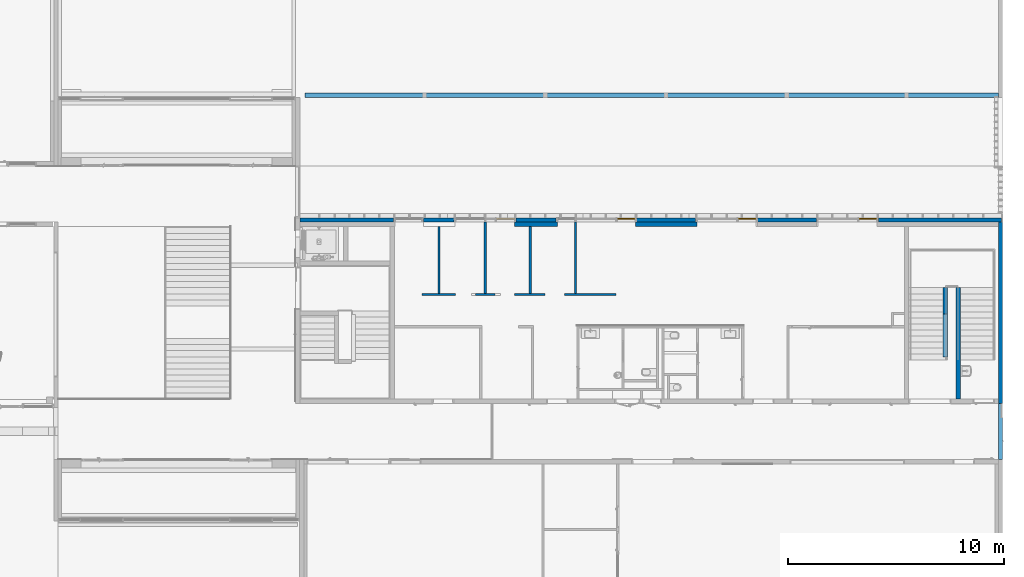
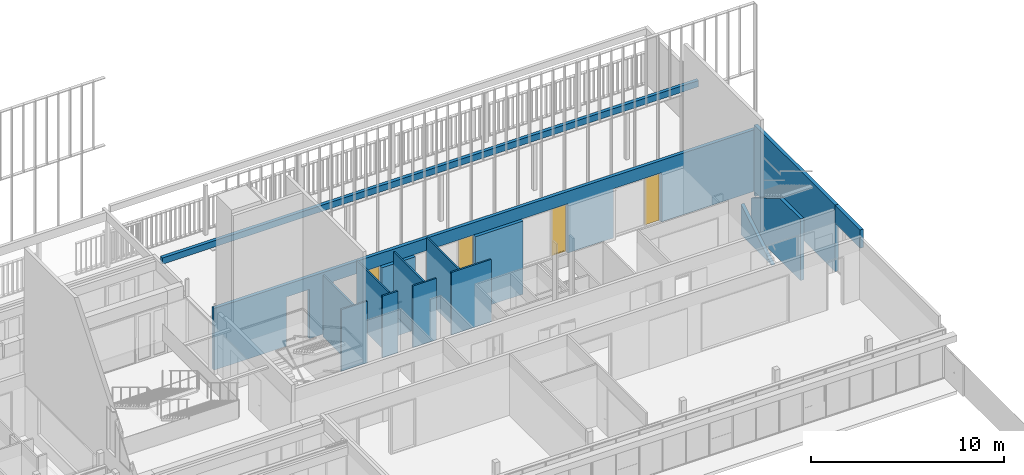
# One storey, part 174 of 240: 16 walls, 4 windows, 11 openings.
"""IFC2X3 building model written with IfcOpenShell, lengths in centimetres."""

from ifc_helpers import new_model, entity, si_unit, converted_unit, derived_unit, direction, frame, frame_2d, origin, origin_2d_with_axis, place, context, subcontext, project, spatial, polyline, rectangle, extrude, clip, halfspace, bounded_halfspace, faceted_brep, source, transform, mapped, material, material_list, layer, layer_set, layer_usage, type_object, type_shapes, element, fill, save


model = new_model("IFC2X3")

# Units and contexts
model_context = context("Model", 3, precision=0.001, world=origin(), true_north=direction((6.12303176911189e-17, 1.0)))
body_context = subcontext(model_context, "Body", "Model", "MODEL_VIEW")
ifc_project = project(units=[si_unit("LENGTHUNIT", "METRE", prefix="CENTI"), si_unit("AREAUNIT", "SQUARE_METRE"), si_unit("VOLUMEUNIT", "CUBIC_METRE"), converted_unit("PLANEANGLEUNIT", "DEGREE", entity("IfcRatioMeasure", 0.0174532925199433), si_unit("PLANEANGLEUNIT", "RADIAN"), dimensions=[0, 0, 0, 0, 0, 0, 0]), si_unit("MASSUNIT", "GRAM", prefix="KILO"), derived_unit("MASSDENSITYUNIT", [(si_unit("MASSUNIT", "GRAM", prefix="KILO"), 1), (si_unit("LENGTHUNIT", "METRE"), -3)]), si_unit("TIMEUNIT", "SECOND"), si_unit("FREQUENCYUNIT", "HERTZ"), si_unit("THERMODYNAMICTEMPERATUREUNIT", "DEGREE_CELSIUS"), derived_unit("THERMALTRANSMITTANCEUNIT", [(si_unit("MASSUNIT", "GRAM", prefix="KILO"), 1), (si_unit("THERMODYNAMICTEMPERATUREUNIT", "KELVIN"), -1), (si_unit("TIMEUNIT", "SECOND"), -3)]), derived_unit("VOLUMETRICFLOWRATEUNIT", [(si_unit("LENGTHUNIT", "METRE"), 3), (si_unit("TIMEUNIT", "SECOND"), -1)]), si_unit("ELECTRICCURRENTUNIT", "AMPERE"), si_unit("ELECTRICVOLTAGEUNIT", "VOLT"), si_unit("POWERUNIT", "WATT"), si_unit("FORCEUNIT", "NEWTON", prefix="KILO"), si_unit("ILLUMINANCEUNIT", "LUX"), si_unit("LUMINOUSFLUXUNIT", "LUMEN"), si_unit("LUMINOUSINTENSITYUNIT", "CANDELA"), derived_unit("USERDEFINED", [(si_unit("MASSUNIT", "GRAM", prefix="KILO"), -1), (si_unit("LENGTHUNIT", "METRE"), -2), (si_unit("TIMEUNIT", "SECOND"), 3), (si_unit("LUMINOUSFLUXUNIT", "LUMEN"), 1)]), derived_unit("LINEARVELOCITYUNIT", [(si_unit("LENGTHUNIT", "METRE"), 1), (si_unit("TIMEUNIT", "SECOND"), -1)]), si_unit("PRESSUREUNIT", "PASCAL"), derived_unit("USERDEFINED", [(si_unit("LENGTHUNIT", "METRE"), -2), (si_unit("MASSUNIT", "GRAM", prefix="KILO"), 1), (si_unit("TIMEUNIT", "SECOND"), -2)])], contexts=[model_context])

# Site, building, storey
site_placement = place(None, frame((-2781.94577612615, 7442.24238424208, 0.0)))
site = spatial("IfcSite", under=ifc_project, at=site_placement, Name="Default", CompositionType="ELEMENT")
building_placement = place(site_placement, origin())
building = spatial("IfcBuilding", under=site, at=building_placement, CompositionType="ELEMENT")
storey_placement = place(building_placement, origin())
storey = spatial("IfcBuildingStorey", under=building, at=storey_placement, Name="N00 - COO", CompositionType="ELEMENT", Elevation=0.0)

# Wall, openings, windows
ifc_material_1 = material(Name="Aluminium bardage")
ifc_layer_1 = layer(ifc_material_1, 0.5)
ifc_material_2 = material(Name="01 - Lame d'air")
ifc_layer_2 = layer(ifc_material_2, 1.5)
ifc_material_3 = material(Name="00 - Isolant")
ifc_layer_3 = layer(ifc_material_3, 18.0)
ifc_layer_set_1 = layer_set([ifc_layer_1, ifc_layer_2, ifc_layer_3], Name="Mur de base:04 - Parement - ITE 18cm + vide 2cm")
ifc_layer_usage_1 = layer_usage(ifc_layer_set_1, "AXIS2", "NEGATIVE", 10.0)
wall_type_1 = type_object("IfcWallType", Name="Mur de base:04 - Parement - ITE 18cm + vide 2cm", PredefinedType="STANDARD", material=ifc_layer_set_1)
wall_1_placement = place(building_placement, frame((-3647.99987968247, -1080.0, 0.0)))
wall_1 = element("IfcWallStandardCase", 1, at=wall_1_placement, inside=storey, type_object=wall_type_1, material=ifc_layer_usage_1, Name="Mur de base:04 - Parement - ITE 18cm + vide 2cm", ObjectType="Mur de base:04 - Parement - ITE 18cm + vide 2cm", context=body_context, shape_type="SweptSolid", body=[
    extrude(rectangle(XDim=3253.0, YDim=20.0000000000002, at=frame_2d((1626.5, 2.66453525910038e-14), x_axis=(-1.0, 0.0))), origin(), (0.0, 0.0, 1.0), 391.0),
])
opening_1_placement = place(wall_1_placement, origin())
element("IfcOpeningElement", 2, at=opening_1_placement, cuts=wall_1, Name="Mur de base:04 - Parement - ITE 18cm + vide 2cm", ObjectType="Opening", context=body_context, shape_type="SweptSolid", body=[
    extrude(rectangle(XDim=312.5, YDim=286.5, at=frame_2d((0.0, -1.13686837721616e-13), x_axis=(1.0, 0.0))), frame((1978.69999684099, -25.2399999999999, 156.25), z_axis=(0.0, 1.0, 0.0), x_axis=(0.0, 0.0, 1.0)), (0.0, 0.0, 1.0), 50.48),
])
opening_2_placement = place(wall_1_placement, origin())
element("IfcOpeningElement", 3, at=opening_2_placement, cuts=wall_1, Name="Mur de base:04 - Parement - ITE 18cm + vide 2cm", ObjectType="Opening", context=body_context, shape_type="SweptSolid", body=[
    extrude(rectangle(XDim=312.5, YDim=286.5, at=origin_2d_with_axis()), frame((2538.69999684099, -25.2399999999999, 156.25), z_axis=(0.0, 1.0, 0.0), x_axis=(0.0, 0.0, 1.0)), (0.0, 0.0, 1.0), 50.48),
])
opening_3_placement = place(wall_1_placement, origin())
element("IfcOpeningElement", 4, at=opening_3_placement, cuts=wall_1, Name="Mur de base:04 - Parement - ITE 18cm + vide 2cm", ObjectType="Opening", context=body_context, shape_type="SweptSolid", body=[
    extrude(rectangle(XDim=312.5, YDim=137.249999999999, at=origin_2d_with_axis()), frame((504.074996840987, -25.2399999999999, 156.25), z_axis=(0.0, 1.0, 0.0), x_axis=(0.0, 0.0, 1.0)), (0.0, 0.0, 1.0), 50.48),
])
opening_4_placement = place(wall_1_placement, origin())
element("IfcOpeningElement", 5, at=opening_4_placement, cuts=wall_1, Name="Mur de base:04 - Parement - ITE 18cm + vide 2cm", ObjectType="Opening", context=body_context, shape_type="SweptSolid", body=[
    extrude(rectangle(XDim=312.5, YDim=286.5, at=frame_2d((-2.1316282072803e-13, 0.0), x_axis=(0.0, 1.0))), frame((858.699996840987, -25.2399999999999, 156.25), z_axis=(0.0, 1.0, 0.0), x_axis=(-1.0, 0.0, 0.0)), (0.0, 0.0, 1.0), 50.48),
])
opening_5_placement = place(wall_1_placement, origin())
element("IfcOpeningElement", 6, at=opening_5_placement, cuts=wall_1, Name="Mur de base:04 - Parement - ITE 18cm + vide 2cm", ObjectType="Opening", context=body_context, shape_type="SweptSolid", body=[
    extrude(rectangle(XDim=312.5, YDim=89.9999999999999, at=frame_2d((2.16715534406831e-13, 0.0), x_axis=(0.0, 1.0))), frame((1233.69999684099, -25.2399999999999, 156.25), z_axis=(0.0, 1.0, 0.0), x_axis=(-1.0, 0.0, 0.0)), (0.0, 0.0, 1.0), 50.48),
])
opening_6_placement = place(wall_1_placement, origin())
element("IfcOpeningElement", 7, at=opening_6_placement, cuts=wall_1, Name="Mur de base:04 - Parement - ITE 18cm + vide 2cm", ObjectType="Opening", context=body_context, shape_type="SweptSolid", body=[
    extrude(rectangle(XDim=312.5, YDim=286.5, at=frame_2d((-2.1316282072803e-13, 0.0), x_axis=(0.0, 1.0))), frame((1418.69999684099, -25.2399999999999, 156.25), z_axis=(0.0, 1.0, 0.0), x_axis=(-1.0, 0.0, 0.0)), (0.0, 0.0, 1.0), 50.48),
])
opening_7_placement = place(wall_1_placement, frame((2031.94999684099, -10.0, 6.5)))
opening_7 = element("IfcOpeningElement", 8, at=opening_7_placement, cuts=wall_1, Name="Ouvrant vitré:Ouvrant vitré (90cm) RDC:1", ObjectType="Opening", context=body_context, shape_type="SweptSolid", body=[
    extrude(rectangle(XDim=299.5, YDim=83.5000000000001, at=frame_2d((149.75, 41.75), x_axis=(1.0, 0.0))), frame((0.0, 0.0, 0.0), z_axis=(0.0, 1.0, 0.0), x_axis=(0.0, 0.0, 1.0)), (0.0, 0.0, 1.0), 20.0),
])
opening_8_placement = place(wall_1_placement, frame((1471.94999684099, -10.0, 6.5)))
opening_8 = element("IfcOpeningElement", 9, at=opening_8_placement, cuts=wall_1, Name="Ouvrant vitré:Ouvrant vitré (90cm) RDC:1", ObjectType="Opening", context=body_context, shape_type="SweptSolid", body=[
    extrude(rectangle(XDim=299.5, YDim=83.5000000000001, at=frame_2d((149.75, 41.75), x_axis=(1.0, 0.0))), frame((0.0, 0.0, 0.0), z_axis=(0.0, 1.0, 0.0), x_axis=(0.0, 0.0, 1.0)), (0.0, 0.0, 1.0), 20.0),
])
opening_9_placement = place(wall_1_placement, frame((911.949996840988, -10.0, 6.5)))
opening_9 = element("IfcOpeningElement", 10, at=opening_9_placement, cuts=wall_1, Name="Ouvrant vitré:Ouvrant vitré (90cm) RDC:1", ObjectType="Opening", context=body_context, shape_type="SweptSolid", body=[
    extrude(rectangle(XDim=299.5, YDim=83.5000000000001, at=frame_2d((149.75, 41.75), x_axis=(1.0, 0.0))), frame((0.0, 0.0, 0.0), z_axis=(0.0, 1.0, 0.0), x_axis=(0.0, 0.0, 1.0)), (0.0, 0.0, 1.0), 20.0),
])
opening_10_placement = place(wall_1_placement, frame((2591.94999684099, -10.0, 6.5)))
opening_10 = element("IfcOpeningElement", 11, at=opening_10_placement, cuts=wall_1, Name="Ouvrant vitré:Ouvrant vitré (90cm) RDC:1", ObjectType="Opening", context=body_context, shape_type="SweptSolid", body=[
    extrude(rectangle(XDim=299.5, YDim=83.5000000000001, at=frame_2d((149.75, 41.75), x_axis=(1.0, 0.0))), frame((0.0, 0.0, 0.0), z_axis=(0.0, 1.0, 0.0), x_axis=(0.0, 0.0, 1.0)), (0.0, 0.0, 1.0), 20.0),
])
ifc_material_4 = material(Name="Verre")
ifc_material_5 = material(Name="Aluminium")
ifc_material_list_1 = material_list([ifc_material_4, ifc_material_5])
ifc_material_list_2 = material_list([ifc_material_4, ifc_material_5])
window_style_1 = type_object("IfcWindowStyle", Name="Ouvrant vitré (90cm) RDC", ConstructionType="NOTDEFINED", OperationType="NOTDEFINED", ParameterTakesPrecedence=False, Sizeable=False, material=ifc_material_list_2)
shared_shape_1 = source(origin(), body_context, "Body", "Brep", [
    faceted_brep([(6.50000000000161, 15.2499999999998, 293.0), (77.0, 15.2500000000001, 293.0), (77.0, 15.2500000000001, 6.49999999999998), (6.50000000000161, 15.2499999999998, 6.49999999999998), (6.50000000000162, 13.2499999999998, 6.49999999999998), (6.50000000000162, 13.2499999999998, 293.0), (77.0, 13.2500000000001, 6.49999999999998), (77.0, 13.2500000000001, 293.0)], [[[0, 1, 2, 3]], [[3, 4, 5, 0]], [[2, 6, 4, 3]], [[1, 7, 6, 2]], [[5, 4, 6, 7]], [[0, 5, 7, 1]]]),
    faceted_brep([(6.50000000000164, 16.5395884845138, 293.0), (6.50000000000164, 16.5395884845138, 6.50000000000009), (77.0, 16.539588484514, 6.50000000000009), (77.0, 16.539588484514, 293.0), (3.50000000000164, 16.5395884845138, 296.0), (80.0, 16.5395884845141, 296.0), (80.0, 16.5395884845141, 3.50000000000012), (3.50000000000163, 16.5395884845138, 3.50000000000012), (3.50000000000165, 13.039588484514, 3.50000000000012), (3.50000000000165, 13.039588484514, 296.0), (80.0, 13.0395884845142, 3.50000000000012), (80.0, 13.0395884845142, 296.0), (77.0, 13.0395884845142, 6.50000000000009), (77.0, 13.0395884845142, 293.0), (6.50000000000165, 13.039588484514, 6.50000000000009), (6.50000000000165, 13.039588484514, 293.0)], [[[0, 1, 2, 3], [4, 5, 6, 7]], [[7, 8, 9, 4]], [[6, 10, 8, 7]], [[5, 11, 10, 6]], [[2, 12, 13, 3]], [[1, 14, 12, 2]], [[0, 15, 14, 1]], [[9, 8, 10, 11], [15, 13, 12, 14]], [[4, 9, 11, 5]], [[3, 13, 15, 0]]], outer=[[False, True], [True], [True], [True], [True], [True], [True], [True, False], [True], [True]]),
    faceted_brep([(5.0, 16.5395884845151, 294.5), (5.0, 16.5395884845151, 5.0), (5.0, 18.0395884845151, 5.0), (5.0, 18.0395884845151, 294.5), (78.5000000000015, 18.0395884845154, 5.0), (78.5000000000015, 18.0395884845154, 294.5), (0.0, 18.0395884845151, 0.0), (0.0, 18.0395884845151, 299.5), (83.5000000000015, 18.0395884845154, 299.5), (83.5000000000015, 18.0395884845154, 0.0), (78.5000000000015, 16.5395884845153, 5.0), (78.5000000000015, 16.5395884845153, 294.5), (3.50000000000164, 16.5395884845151, 296.0), (3.50000000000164, 16.5395884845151, 3.50000000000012), (80.0, 16.5395884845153, 3.50000000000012), (80.0, 16.5395884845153, 296.0), (3.50000000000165, 13.0395884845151, 296.0), (3.50000000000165, 13.0395884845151, 3.50000000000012), (80.0, 13.0395884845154, 3.50000000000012), (80.0, 13.0395884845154, 296.0), (0.0, 13.0395884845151, 299.5), (0.0, 13.0395884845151, 0.0), (83.5000000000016, 13.0395884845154, 0.0), (83.5000000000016, 13.0395884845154, 299.5)], [[[0, 1, 2, 3]], [[3, 2, 4, 5], [6, 7, 8, 9]], [[1, 10, 4, 2]], [[1, 0, 11, 10], [12, 13, 14, 15]], [[16, 17, 13, 12]], [[17, 18, 14, 13]], [[17, 16, 19, 18], [20, 21, 22, 23]], [[7, 6, 21, 20]], [[6, 9, 22, 21]], [[10, 11, 5, 4]], [[18, 19, 15, 14]], [[9, 8, 23, 22]], [[11, 0, 3, 5]], [[19, 16, 12, 15]], [[8, 7, 20, 23]]], outer=[[True], [False, True], [True], [False, True], [True], [True], [False, True], [True], [True], [True], [True], [True], [True], [True], [True]]),
])
type_shapes(window_style_1, [shared_shape_1])
window_1_placement = place(opening_10_placement, origin())
window_1 = element("IfcWindow", 12, at=window_1_placement, inside=storey, type_object=window_style_1, material=ifc_material_list_1, Name="Ouvrant vitré:Ouvrant vitré (90cm) RDC", ObjectType="Ouvrant vitré:Ouvrant vitré (90cm) RDC", OverallHeight=299.5, OverallWidth=83.5000000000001, context=body_context, shape_type="MappedRepresentation", body=[
    mapped(shared_shape_1, transform((0.0, 0.0, 0.0), scale=1.0)),
])
fill(opening_10, window_1)
ifc_material_list_3 = material_list([ifc_material_4, ifc_material_5])
window_2_placement = place(opening_9_placement, origin())
window_2 = element("IfcWindow", 13, at=window_2_placement, inside=storey, type_object=window_style_1, material=ifc_material_list_3, Name="Ouvrant vitré:Ouvrant vitré (90cm) RDC", ObjectType="Ouvrant vitré:Ouvrant vitré (90cm) RDC", OverallHeight=299.5, OverallWidth=83.5000000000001, context=body_context, shape_type="MappedRepresentation", body=[
    mapped(shared_shape_1, transform((0.0, 0.0, 0.0), scale=1.0)),
])
fill(opening_9, window_2)
ifc_material_list_4 = material_list([ifc_material_4, ifc_material_5])
ifc_material_list_5 = material_list([ifc_material_4, ifc_material_5])
window_style_2 = type_object("IfcWindowStyle", Name="Ouvrant vitré (90cm) RDC", ConstructionType="NOTDEFINED", OperationType="NOTDEFINED", ParameterTakesPrecedence=False, Sizeable=False, material=ifc_material_list_5)
shared_shape_2 = source(origin(), body_context, "Body", "Brep", [
    faceted_brep([(77.0, 15.2499999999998, 293.0), (77.0, 15.2499999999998, 6.49999999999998), (6.50000000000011, 15.2500000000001, 6.49999999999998), (6.50000000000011, 15.2500000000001, 293.0), (77.0, 13.2499999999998, 293.0), (77.0, 13.2499999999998, 6.49999999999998), (6.50000000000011, 13.2500000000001, 6.49999999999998), (6.50000000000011, 13.2500000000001, 293.0)], [[[0, 1, 2, 3]], [[1, 0, 4, 5]], [[2, 1, 5, 6]], [[3, 2, 6, 7]], [[4, 7, 6, 5]], [[0, 3, 7, 4]]]),
    faceted_brep([(80.0, 16.5395884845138, 296.0), (80.0, 16.5395884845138, 3.50000000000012), (3.50000000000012, 16.5395884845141, 3.50000000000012), (3.50000000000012, 16.5395884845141, 296.0), (77.0, 16.5395884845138, 293.0), (6.50000000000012, 16.539588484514, 293.0), (6.50000000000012, 16.539588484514, 6.50000000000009), (77.0, 16.5395884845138, 6.50000000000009), (80.0, 13.039588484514, 296.0), (80.0, 13.039588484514, 3.50000000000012), (3.50000000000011, 13.0395884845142, 3.50000000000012), (3.50000000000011, 13.0395884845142, 296.0), (6.50000000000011, 13.0395884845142, 293.0), (6.50000000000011, 13.0395884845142, 6.50000000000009), (77.0, 13.039588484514, 6.50000000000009), (77.0, 13.039588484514, 293.0)], [[[0, 1, 2, 3], [4, 5, 6, 7]], [[1, 0, 8, 9]], [[2, 1, 9, 10]], [[3, 2, 10, 11]], [[6, 5, 12, 13]], [[7, 6, 13, 14]], [[4, 7, 14, 15]], [[15, 14, 13, 12], [8, 11, 10, 9]], [[0, 3, 11, 8]], [[5, 4, 15, 12]]], outer=[[True, False], [True], [True], [True], [True], [True], [True], [False, True], [True], [True]]),
    faceted_brep([(78.5, 16.5395884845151, 294.5), (78.5, 18.0395884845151, 294.5), (78.5, 18.0395884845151, 5.0), (78.5, 16.5395884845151, 5.0), (83.5, 18.0395884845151, 0.0), (0.0, 18.0395884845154, 0.0), (0.0, 18.0395884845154, 299.5), (83.5, 18.0395884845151, 299.5), (5.0, 18.0395884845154, 294.5), (5.0, 18.0395884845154, 5.0), (5.0, 16.5395884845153, 5.0), (5.0, 16.5395884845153, 294.5), (80.0, 16.5395884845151, 296.0), (3.50000000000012, 16.5395884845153, 296.0), (3.50000000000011, 16.5395884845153, 3.50000000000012), (80.0, 16.5395884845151, 3.50000000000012), (80.0, 13.0395884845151, 296.0), (80.0, 13.0395884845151, 3.50000000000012), (3.5000000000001, 13.0395884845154, 3.50000000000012), (3.50000000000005, 13.0395884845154, 296.0), (83.5000000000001, 13.0395884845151, 299.5), (0.0, 13.0395884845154, 299.5), (0.0, 13.0395884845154, 0.0), (83.5, 13.0395884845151, 0.0)], [[[0, 1, 2, 3]], [[4, 5, 6, 7], [1, 8, 9, 2]], [[3, 2, 9, 10]], [[3, 10, 11, 0], [12, 13, 14, 15]], [[16, 12, 15, 17]], [[17, 15, 14, 18]], [[17, 18, 19, 16], [20, 21, 22, 23]], [[7, 20, 23, 4]], [[4, 23, 22, 5]], [[10, 9, 8, 11]], [[18, 14, 13, 19]], [[5, 22, 21, 6]], [[11, 8, 1, 0]], [[19, 13, 12, 16]], [[6, 21, 20, 7]]], outer=[[True], [True, False], [True], [False, True], [True], [True], [False, True], [True], [True], [True], [True], [True], [True], [True], [True]]),
])
type_shapes(window_style_2, [shared_shape_2])
window_3_placement = place(opening_7_placement, origin())
window_3 = element("IfcWindow", 14, at=window_3_placement, inside=storey, type_object=window_style_2, material=ifc_material_list_4, Name="Ouvrant vitré:Ouvrant vitré (90cm) RDC", ObjectType="Ouvrant vitré:Ouvrant vitré (90cm) RDC", OverallHeight=299.5, OverallWidth=83.5000000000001, context=body_context, shape_type="MappedRepresentation", body=[
    mapped(shared_shape_2, transform((0.0, 0.0, 0.0), scale=1.0)),
])
fill(opening_7, window_3)
ifc_material_list_6 = material_list([ifc_material_4, ifc_material_5])
window_4_placement = place(opening_8_placement, origin())
window_4 = element("IfcWindow", 15, at=window_4_placement, inside=storey, type_object=window_style_2, material=ifc_material_list_6, Name="Ouvrant vitré:Ouvrant vitré (90cm) RDC", ObjectType="Ouvrant vitré:Ouvrant vitré (90cm) RDC", OverallHeight=299.5, OverallWidth=83.5000000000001, context=body_context, shape_type="MappedRepresentation", body=[
    mapped(shared_shape_2, transform((0.0, 0.0, 0.0), scale=1.0)),
])
fill(opening_8, window_4)

# Walls
ifc_material_6 = material(Name="01 - Maçonnerie")
ifc_layer_4 = layer(ifc_material_6, 20.0)
ifc_layer_set_2 = layer_set([ifc_layer_4], Name="Mur de base:04 - Structure - béton - 20cm")
ifc_layer_usage_2 = layer_usage(ifc_layer_set_2, "AXIS2", "NEGATIVE", 10.0)
wall_type_2 = type_object("IfcWallType", Name="Mur de base:04 - Structure - béton - 20cm", PredefinedType="STANDARD", material=ifc_layer_set_2)
wall_2_placement = place(building_placement, frame((-3623.99987968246, -502.548500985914, 313.0)))
element("IfcWallStandardCase", 16, at=wall_2_placement, inside=storey, type_object=wall_type_2, material=ifc_layer_usage_2, Name="Mur de base:04 - Structure - béton - 20cm", ObjectType="Mur de base:04 - Structure - béton - 20cm", context=body_context, shape_type="SweptSolid", body=[
    extrude(rectangle(XDim=3213.99999684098, YDim=20.0, at=frame_2d((1606.99999842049, 2.66453525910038e-14), x_axis=(-1.0, 0.0))), origin(), (0.0, 0.0, 1.0), 40.0000000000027),
])
ifc_layer_usage_3 = layer_usage(ifc_layer_set_2, "AXIS2", "NEGATIVE", 10.0)
wall_3_placement = place(building_placement, frame((-2652.54988284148, -1100.0, -150.0)))
element("IfcWallStandardCase", 17, at=wall_3_placement, inside=storey, type_object=wall_type_2, material=ifc_layer_usage_3, Name="Mur de base:04 - Structure - béton - 20cm", ObjectType="Mur de base:04 - Structure - béton - 20cm", context=body_context, shape_type="SweptSolid", body=[
    extrude(rectangle(XDim=199.749999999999, YDim=19.9999999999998, at=frame_2d((99.8749999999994, 1.68753899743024e-14), x_axis=(-1.0, 0.0))), origin(), (0.0, 0.0, 1.0), 463.0),
])
ifc_layer_usage_4 = layer_usage(ifc_layer_set_2, "AXIS2", "NEGATIVE", 10.0)
wall_4_placement = place(storey_placement, frame((-2092.54988284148, -1100.0, -150.0)))
element("IfcWallStandardCase", 18, at=wall_4_placement, inside=storey, type_object=wall_type_2, material=ifc_layer_usage_4, Name="Mur de base:04 - Structure - béton - 20cm", ObjectType="Mur de base:04 - Structure - béton - 20cm", context=body_context, shape_type="SweptSolid", body=[
    extrude(rectangle(XDim=286.5, YDim=19.9999999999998, at=frame_2d((143.25, 1.06581410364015e-14), x_axis=(-1.0, 0.0))), origin(), (0.0, 0.0, 1.0), 463.0),
])

# Wall, opening
ifc_layer_usage_5 = layer_usage(ifc_layer_set_2, "AXIS2", "NEGATIVE", 10.0)
wall_5_placement = place(building_placement, frame((-399.999882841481, -1090.0, -26.0), z_axis=(0.0, 0.0, 1.0), x_axis=(0.0, -1.0, 0.0)))
wall_5 = element("IfcWallStandardCase", 19, at=wall_5_placement, inside=storey, type_object=wall_type_2, material=ifc_layer_usage_5, Name="Mur de base:04 - Structure - béton - 20cm", ObjectType="Mur de base:04 - Structure - béton - 20cm", context=body_context, shape_type="Clipping", body=[
    clip(clip(clip(extrude(rectangle(XDim=840.156567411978, YDim=20.0, at=frame_2d((420.078283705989, 5.32907051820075e-15), x_axis=(-1.0, 0.0))), origin(), (0.0, 0.0, 1.0), 448.0), bounded_halfspace(frame((0.0, 10.0, 448.0), z_axis=(0.0, 0.0, -1.0), x_axis=(0.0, 1.0, 0.0)), True, frame((0.0, 10.0, 448.0)), polyline([(0.0, 0.0), (0.0, -20.0), (820.079033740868, -20.0), (840.156567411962, -20.0), (840.156567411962, 0.0), (840.079033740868, 0.0), (820.079033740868, 0.0), (0.0, 0.0)]))), bounded_halfspace(frame((10.0, 10.0, 26.0), z_axis=(-1.0, 0.0, 0.0), x_axis=(0.0, -1.0, 0.0)), True, frame((10.0, 10.0, 26.0), z_axis=(-1.0, 0.0, 0.0), x_axis=(0.0, -1.0, 0.0)), polyline([(0.0, 0.0), (0.0, -26.0), (20.0, -26.0), (20.0, 0.0), (0.0, 0.0)]))), bounded_halfspace(frame((10.0, -10.0, 26.0), z_axis=(0.0, 0.0, 1.0), x_axis=(0.0, -1.0, 0.0)), True, frame((10.0, -10.0, 26.0), z_axis=(0.0, 0.0, 1.0), x_axis=(0.0, -1.0, 0.0)), polyline([(0.0, 0.0), (0.0, 10.0), (0.0, 810.079033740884), (0.0, 828.846567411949), (0.0, 830.079033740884), (0.0, 830.156567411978), (-20.0, 830.156567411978), (-20.0, 0.0), (0.0, 0.0)]))),
])
opening_11_placement = place(wall_5_placement, origin())
element("IfcOpeningElement", 20, at=opening_11_placement, cuts=wall_5, Name="Mur de base:04 - Structure - béton - 20cm", ObjectType="Opening", context=body_context, shape_type="SweptSolid", body=[
    extrude(rectangle(XDim=270.0, YDim=260.077533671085, at=frame_2d((-9.9475983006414e-14, 4.2632564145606e-14), x_axis=(0.0, 1.0))), frame((970.117800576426, -142.400000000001, 583.0), z_axis=(0.0, 1.0, 0.0), x_axis=(-1.0, 0.0, 0.0)), (0.0, 0.0, 1.0), 304.8),
])

# Walls
ifc_layer_usage_6 = layer_usage(ifc_layer_set_2, "AXIS2", "NEGATIVE", 10.0)
wall_6_placement = place(building_placement, frame((-399.999882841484, -2190.15656731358, 306.0), z_axis=(0.0, 0.0, 1.0), x_axis=(0.0, 1.0, 0.0)))
element("IfcWallStandardCase", 21, at=wall_6_placement, inside=storey, type_object=wall_type_2, material=ifc_layer_usage_6, Name="Mur de base:04 - Structure - béton - 20cm", ObjectType="Mur de base:04 - Structure - béton - 20cm", context=body_context, shape_type="SweptSolid", body=[
    extrude(rectangle(XDim=260.0, YDim=20.0, at=frame_2d((130.0, 0.0), x_axis=(-1.0, 0.0))), origin(), (0.0, 0.0, 1.0), 116.0),
])
ifc_layer_usage_7 = layer_usage(ifc_layer_set_2, "AXIS2", "NEGATIVE", 10.0)
wall_7_placement = place(building_placement, frame((-595.299882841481, -1394.07903364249, 0.0), z_axis=(0.0, 0.0, 1.0), x_axis=(0.0, -1.0, 0.0)))
element("IfcWallStandardCase", 22, at=wall_7_placement, inside=storey, type_object=wall_type_2, material=ifc_layer_usage_7, Name="Mur de base:04 - Structure - béton - 20cm", ObjectType="Mur de base:04 - Structure - béton - 20cm", context=body_context, shape_type="Clipping", body=[
    clip(clip(extrude(rectangle(XDim=516.000000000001, YDim=20.0, at=frame_2d((258.000000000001, 0.0), x_axis=(-1.0, 0.0))), origin(), (0.0, 0.0, 1.0), 391.0), halfspace(frame((0.0, -10.0, 210.098696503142), z_axis=(-0.516293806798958, 0.0, 0.85641152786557), x_axis=(0.0, 1.0, 0.0)), False)), halfspace(frame((300.073252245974, -10.0, 391.0), z_axis=(0.0, 0.0, 1.0), x_axis=(0.0, 1.0, 0.0)), False)),
])
ifc_layer_usage_8 = layer_usage(ifc_layer_set_2, "AXIS2", "NEGATIVE", 10.0)
wall_8_placement = place(building_placement, frame((-655.299882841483, -1714.58398044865, 0.0), z_axis=(0.0, 0.0, 1.0), x_axis=(0.0, 1.0, 0.0)))
element("IfcWallStandardCase", 23, at=wall_8_placement, inside=storey, type_object=wall_type_2, material=ifc_layer_usage_8, Name="Mur de base:04 - Structure - béton - 20cm", ObjectType="Mur de base:04 - Structure - béton - 20cm", context=body_context, shape_type="Clipping", body=[
    clip(extrude(rectangle(XDim=320.504946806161, YDim=20.0, at=frame_2d((160.252473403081, -1.24344978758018e-14), x_axis=(-1.0, 0.0))), origin(), (0.0, 0.0, 1.0), 193.218696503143), halfspace(frame((0.0, -10.0, 0.0), z_axis=(-0.516293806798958, 0.0, 0.85641152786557), x_axis=(0.0, 1.0, 0.0)), False)),
])
ifc_material_7 = material(Name="01 - Enduit/Plâtre")
ifc_layer_5 = layer(ifc_material_7, 1.3)
ifc_layer_6 = layer(ifc_material_3, 7.4)
ifc_layer_7 = layer(ifc_material_7, 1.3)
ifc_layer_set_3 = layer_set([ifc_layer_5, ifc_layer_6, ifc_layer_7], Name="Mur de base:06 - cloisons - Ba13 10cm")
ifc_layer_usage_9 = layer_usage(ifc_layer_set_3, "AXIS2", "NEGATIVE", 5.0)
wall_type_3 = type_object("IfcWallType", Name="Mur de base:06 - cloisons - Ba13 10cm", PredefinedType="STANDARD", material=ifc_layer_set_3)
wall_9_placement = place(building_placement, frame((-3081.79988284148, -1425.0, 0.0)))
element("IfcWallStandardCase", 24, at=wall_9_placement, inside=storey, type_object=wall_type_3, material=ifc_layer_usage_9, Name="Mur de base:06 - cloisons - Ba13 10cm", ObjectType="Mur de base:06 - cloisons - Ba13 10cm", context=body_context, shape_type="Clipping", body=[
    clip(extrude(rectangle(XDim=155.750000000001, YDim=9.99999999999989, at=frame_2d((77.8750000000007, 0.0), x_axis=(-1.0, 0.0))), origin(), (0.0, 0.0, 1.0), 391.0), bounded_halfspace(frame((0.0, -5.0, 391.0), z_axis=(0.0, 0.0, -1.0), x_axis=(0.0, 1.0, 0.0)), True, frame((0.0, -5.0, 391.0)), polyline([(0.0, 0.0), (155.750000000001, 0.0), (155.750000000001, 10.0), (84.300003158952, 10.0), (74.3000031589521, 10.0), (0.0, 10.0), (0.0, 0.0)]))),
])
ifc_layer_usage_10 = layer_usage(ifc_layer_set_3, "AXIS2", "NEGATIVE", 5.0)
wall_10_placement = place(building_placement, frame((-3002.49987968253, -1420.0, 0.0), z_axis=(0.0, 0.0, 1.0), x_axis=(0.0, 1.0, 0.0)))
element("IfcWallStandardCase", 25, at=wall_10_placement, inside=storey, type_object=wall_type_3, material=ifc_layer_usage_10, Name="Mur de base:06 - cloisons - Ba13 10cm", ObjectType="Mur de base:06 - cloisons - Ba13 10cm", context=body_context, shape_type="Clipping", body=[
    clip(extrude(rectangle(XDim=310.000000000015, YDim=10.0000000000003, at=frame_2d((155.000000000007, -1.05693231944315e-13), x_axis=(-1.0, 0.0))), origin(), (0.0, 0.0, 1.0), 391.0), bounded_halfspace(frame((0.0, -5.0, 391.0), z_axis=(0.0, 0.0, -1.0), x_axis=(1.0, 0.0, 0.0)), True, frame((0.0, -5.0, 391.0)), polyline([(0.0, 0.0), (305.0, 0.0), (305.0, 10.0), (0.0, 10.0), (0.0, 0.0)]))),
])
ifc_layer_usage_11 = layer_usage(ifc_layer_set_3, "AXIS2", "NEGATIVE", 5.0)
wall_11_placement = place(building_placement, frame((-2834.49987965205, -1425.0, 0.0)))
element("IfcWallStandardCase", 26, at=wall_11_placement, inside=storey, type_object=wall_type_3, material=ifc_layer_usage_11, Name="Mur de base:06 - cloisons - Ba13 10cm", ObjectType="Mur de base:06 - cloisons - Ba13 10cm", context=body_context, shape_type="Clipping", body=[
    clip(extrude(rectangle(XDim=92.0000000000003, YDim=9.99999999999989, at=frame_2d((46.0000000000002, -1.73194791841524e-14), x_axis=(-1.0, 0.0))), origin(), (0.0, 0.0, 1.0), 391.0), bounded_halfspace(frame((0.0, -5.0, 391.0), z_axis=(0.0, 0.0, -1.0), x_axis=(0.0, 1.0, 0.0)), True, frame((0.0, -5.0, 391.0)), polyline([(0.0, 0.0), (92.0, 0.0), (92.0, 10.0), (0.0, 10.0), (0.0, 0.0)]))),
])
ifc_layer_usage_12 = layer_usage(ifc_layer_set_3, "AXIS2", "NEGATIVE", 5.0)
wall_12_placement = place(building_placement, frame((-2579.29988284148, -1420.0, 0.0), z_axis=(0.0, 0.0, 1.0), x_axis=(0.0, 1.0, 0.0)))
element("IfcWallStandardCase", 27, at=wall_12_placement, inside=storey, type_object=wall_type_3, material=ifc_layer_usage_12, Name="Mur de base:06 - cloisons - Ba13 10cm", ObjectType="Mur de base:06 - cloisons - Ba13 10cm", context=body_context, shape_type="Clipping", body=[
    clip(extrude(rectangle(XDim=310.000000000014, YDim=10.0000000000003, at=frame_2d((155.000000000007, -1.05693231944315e-13), x_axis=(-1.0, 0.0))), origin(), (0.0, 0.0, 1.0), 391.0), bounded_halfspace(frame((0.0, -5.0, 391.0), z_axis=(0.0, 0.0, -1.0), x_axis=(1.0, 0.0, 0.0)), True, frame((0.0, -5.0, 391.0)), polyline([(0.0, 0.0), (305.0, 0.0), (305.0, 10.0), (0.0, 10.0), (0.0, 0.0)]))),
])
ifc_layer_usage_13 = layer_usage(ifc_layer_set_3, "AXIS2", "NEGATIVE", 5.0)
wall_13_placement = place(building_placement, frame((-2652.54988284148, -1425.0, 0.0)))
element("IfcWallStandardCase", 28, at=wall_13_placement, inside=storey, type_object=wall_type_3, material=ifc_layer_usage_13, Name="Mur de base:06 - cloisons - Ba13 10cm", ObjectType="Mur de base:06 - cloisons - Ba13 10cm", context=body_context, shape_type="Clipping", body=[
    clip(extrude(rectangle(XDim=141.549999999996, YDim=9.99999999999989, at=frame_2d((70.7749999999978, 0.0), x_axis=(-1.0, 0.0))), origin(), (0.0, 0.0, 1.0), 391.0), bounded_halfspace(frame((0.0, -5.0, 391.0), z_axis=(0.0, 0.0, -1.0), x_axis=(0.0, 1.0, 0.0)), True, frame((0.0, -5.0, 391.0)), polyline([(0.0, 0.0), (141.549999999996, 0.0), (141.549999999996, 10.0), (78.2499999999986, 10.0), (68.2499999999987, 10.0), (0.0, 10.0), (0.0, 0.0)]))),
])
ifc_layer_usage_14 = layer_usage(ifc_layer_set_3, "AXIS2", "NEGATIVE", 5.0)
wall_14_placement = place(building_placement, frame((-2369.29988284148, -1090.0, 0.0), z_axis=(0.0, 0.0, 1.0), x_axis=(0.0, -1.0, 0.0)))
element("IfcWallStandardCase", 29, at=wall_14_placement, inside=storey, type_object=wall_type_3, material=ifc_layer_usage_14, Name="Mur de base:06 - cloisons - Ba13 10cm", ObjectType="Mur de base:06 - cloisons - Ba13 10cm", context=body_context, shape_type="SweptSolid", body=[
    extrude(rectangle(XDim=330.0, YDim=10.0000000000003, at=frame_2d((165.0, -3.5527136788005e-15), x_axis=(-1.0, 0.0))), origin(), (0.0, 0.0, 1.0), 396.0),
])
ifc_layer_usage_15 = layer_usage(ifc_layer_set_3, "AXIS2", "NEGATIVE", 5.0)
wall_15_placement = place(building_placement, frame((-2788.29988284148, -1090.0, 0.0), z_axis=(0.0, 0.0, 1.0), x_axis=(0.0, -1.0, 0.0)))
element("IfcWallStandardCase", 30, at=wall_15_placement, inside=storey, type_object=wall_type_3, material=ifc_layer_usage_15, Name="Mur de base:06 - cloisons - Ba13 10cm", ObjectType="Mur de base:06 - cloisons - Ba13 10cm", context=body_context, shape_type="SweptSolid", body=[
    extrude(rectangle(XDim=330.000000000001, YDim=10.0000000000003, at=frame_2d((165.0, -3.5527136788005e-15), x_axis=(-1.0, 0.0))), origin(), (0.0, 0.0, 1.0), 396.0),
])
ifc_layer_usage_16 = layer_usage(ifc_layer_set_3, "AXIS2", "NEGATIVE", 5.0)
wall_16_placement = place(building_placement, frame((-2420.99988284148, -1425.0, 0.0)))
element("IfcWallStandardCase", 31, at=wall_16_placement, inside=storey, type_object=wall_type_3, material=ifc_layer_usage_16, Name="Mur de base:06 - cloisons - Ba13 10cm", ObjectType="Mur de base:06 - cloisons - Ba13 10cm", context=body_context, shape_type="SweptSolid", body=[
    extrude(rectangle(XDim=238.450000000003, YDim=9.99999999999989, at=frame_2d((119.225000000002, 0.0), x_axis=(-1.0, 0.0))), origin(), (0.0, 0.0, 1.0), 396.0),
])

save(model, "model.ifc")
